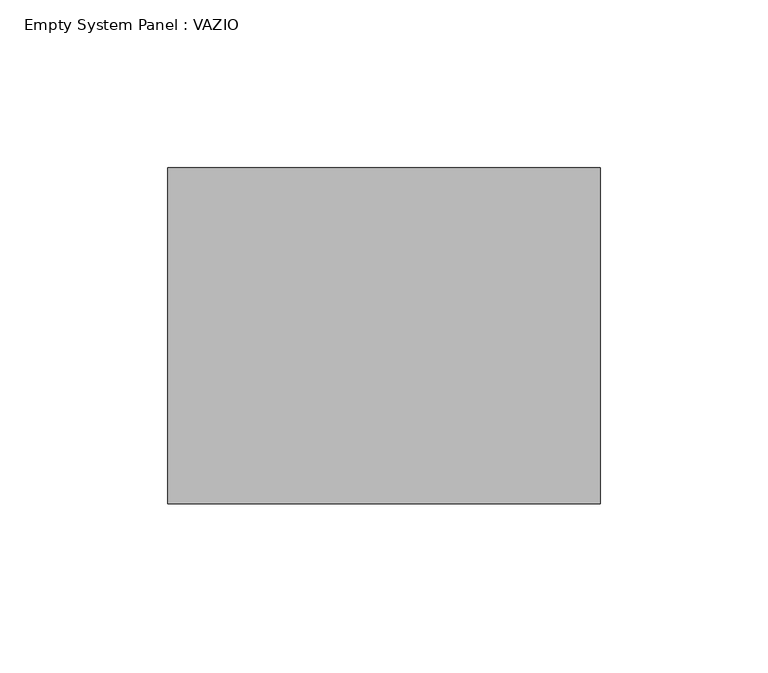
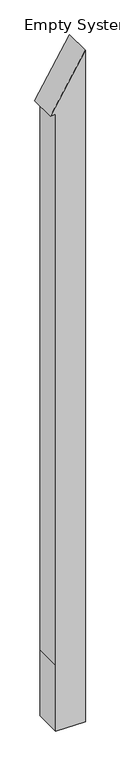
"""IFC4 building model written with IfcOpenShell, lengths in millimetres: plate geometry, Empty System Panel : VAZIO."""

from ifc_helpers import new_model, si_unit, point, frame, frame_2d, origin, place, context, project, spatial, polyline, circle_curve, trimmed, segment, composite_curve, outline, extrude, source, transform, mapped, element, save


def empty_system_panel_vazio_f7d425da(model_context):
    return source(origin(), model_context, "Body", "SweptSolid", [
        extrude(outline(composite_curve([segment(polyline([(0.0, -44.3902439), (0.0, 64.3902439), (256.7936467, 64.3902439), (2615.2944888, 64.3902439)]), True, "CONTINUOUS"), segment(trimmed(circle_curve(frame_2d((3146.6227404, -1044.9288669)), 1229.9994311), [point((2615.2944888, 64.3902439))], [point((2404.0309216, -64.3902439))], True, "CARTESIAN"), True, "CONTINUOUS"), segment(polyline([(2404.0309216, -64.3902439), (2404.0309216, -44.3902439), (256.7936467, -44.3902439), (0.0, -44.3902439)]), True, "CONTINUOUS")], self_intersect=False)), frame((0.0, -50.0, 0.0), z_axis=(0.0, 1.0, 0.0), x_axis=(0.0, 0.0, 1.0)), (0.0, 0.0, 1.0), 100.0),
    ])


if __name__ == "__main__":
    model = new_model("IFC4")
    model_context = context("Model", 3, world=origin())
    ifc_project = project(units=[si_unit("LENGTHUNIT", "METRE", prefix="MILLI")], contexts=[model_context])
    site = spatial("IfcSite", under=ifc_project)
    building = spatial("IfcBuilding", under=site)
    placement = place(None, origin())
    empty_system_panel_vazio_shape = empty_system_panel_vazio_f7d425da(model_context)
    element("IfcPlate", 1, ObjectType="Empty System Panel : VAZIO", at=placement, inside=building, context=model_context, shape_type="MappedRepresentation", body=[
        mapped(empty_system_panel_vazio_shape, transform((0.0, 0.0, 0.0), x_axis=(1.0, 0.0, 0.0), y_axis=(0.0, 1.0, 0.0), z_axis=(0.0, 0.0, 1.0))),
    ])
    save(model, "model.ifc")
